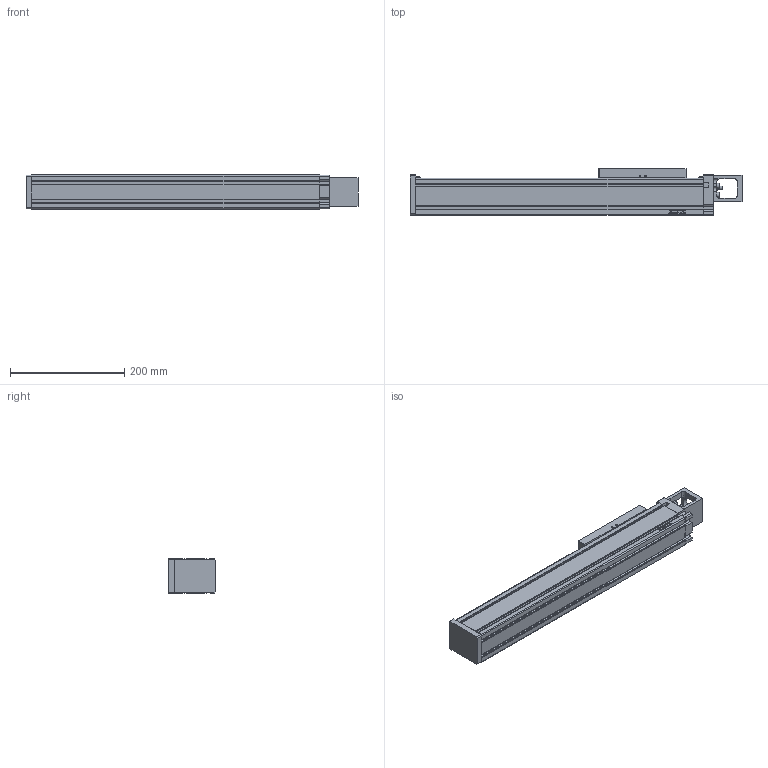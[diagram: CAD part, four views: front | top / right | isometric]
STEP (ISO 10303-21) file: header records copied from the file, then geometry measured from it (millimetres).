
FILE_DESCRIPTION(/* description */ (''),/* implementation_level */ '2;1');
FILE_NAME(/* name */ 'D:\混合母檔20191031\混和母檔\混和母檔\bin\Debug\Download\3D\KU60-10C-300AF0\KU60-10C-300AF0.stp',/* time_stamp */ '2019-11-04T16:37:01+08:00',/* author */ ('user'),/* organization */ (''),/* preprocessor_version */ 'ST-DEVELOPER v16.13',/* originating_system */ 'Autodesk Inventor 2018',/* authorisation */ '');
FILE_SCHEMA (('AUTOMOTIVE_DESIGN { 1 0 10303 214 3 1 1 }'));
Length unit declared in the file: millimetre
Products named in the file (3): KU60-10C-300AF0; KU060-F0-BP; KU60-SL
Assembly tree (2 placements, depth 2):
  KU60-10C-300AF0
    KU060-F0-BP
    KU60-SL
Bounding box: 581 x 82 x 60 mm (x, y, z)
Volume: 2138218.6 mm3; surface area: 231688.5 mm2
Topology: 2 solids, 14 shells, 756 faces, 2087 edges, 1370 vertices
Faces by surface type: plane 448, bspline 140, cylinder 133, cone 23, torus 12
Full cylindrical faces by diameter (mm): 2.459 x8, 3 x4, 3.242 x16, 3.5 x4, 4.5 x4, 5 x4, 5.5 x4, 5.7 x4, 6 x1, 8 x1, 8.5 x4, 30 x1, 35 x1
Entity records: 24568 total; most frequent: CARTESIAN_POINT 6539, ORIENTED_EDGE 3902, DIRECTION 3204, EDGE_CURVE 1951, VERTEX_POINT 1321, LINE 1288, VECTOR 1288, AXIS2_PLACEMENT_3D 958
